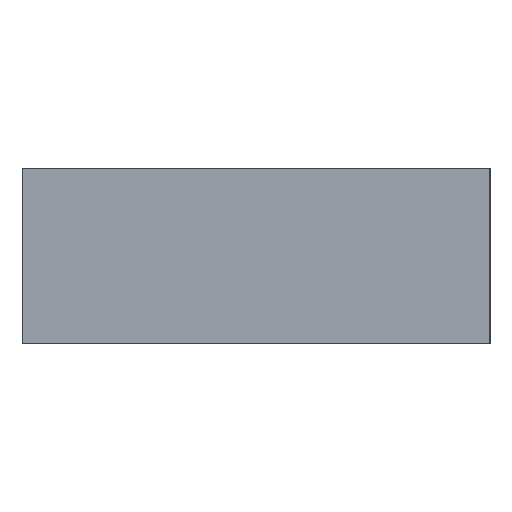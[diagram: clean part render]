
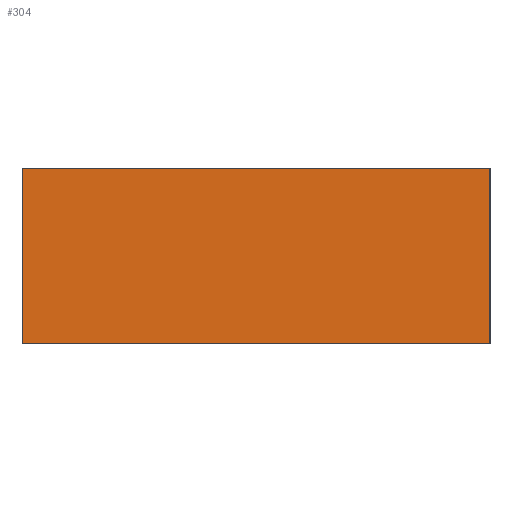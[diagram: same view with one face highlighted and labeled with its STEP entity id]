
A CAD part, left-side view. The second image highlights one B-rep face of the part: STEP entity #304.
In plain terms, the highlighted planar face has unit normal (-1, 0, 0).
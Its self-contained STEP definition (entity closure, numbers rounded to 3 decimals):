
#304=ADVANCED_FACE('',(#544),#546,.T.);
#544=FACE_BOUND('',#545,.T.);
#545=EDGE_LOOP('',(#712,#713,#714,#715));
#546=PLANE('',#547);
#547=AXIS2_PLACEMENT_3D('',#548,#549,#550);
#548=CARTESIAN_POINT('',(-1.6,-0.8,0.));
#549=DIRECTION('',(-1.,0.,0.));
#550=DIRECTION('',(0.,0.,1.));
#712=ORIENTED_EDGE('',*,*,#791,.T.);
#713=ORIENTED_EDGE('',*,*,#802,.T.);
#714=ORIENTED_EDGE('',*,*,#798,.F.);
#715=ORIENTED_EDGE('',*,*,#803,.F.);
#791=EDGE_CURVE('',#897,#894,#898,.T.);
#798=EDGE_CURVE('',#907,#909,#910,.T.);
#802=EDGE_CURVE('',#894,#909,#914,.T.);
#803=EDGE_CURVE('',#897,#907,#915,.T.);
#894=VERTEX_POINT('',#1106);
#897=VERTEX_POINT('',#1111);
#898=LINE('',#1112,#1113);
#907=VERTEX_POINT('',#1133);
#909=VERTEX_POINT('',#1137);
#910=LINE('',#1138,#1139);
#914=LINE('',#1150,#1151);
#915=LINE('',#1153,#1154);
#1106=CARTESIAN_POINT('',(-1.6,-0.8,0.6));
#1111=CARTESIAN_POINT('',(-1.6,-0.8,0.));
#1112=CARTESIAN_POINT('',(-1.6,-0.8,0.));
#1113=VECTOR('',#1114,1.);
#1114=DIRECTION('',(0.,0.,1.));
#1133=CARTESIAN_POINT('',(-1.6,0.8,0.));
#1137=CARTESIAN_POINT('',(-1.6,0.8,0.6));
#1138=CARTESIAN_POINT('',(-1.6,0.8,0.));
#1139=VECTOR('',#1140,1.);
#1140=DIRECTION('',(0.,0.,1.));
#1150=CARTESIAN_POINT('',(-1.6,-0.8,0.6));
#1151=VECTOR('',#1152,1.);
#1152=DIRECTION('',(0.,1.,0.));
#1153=CARTESIAN_POINT('',(-1.6,-0.8,0.));
#1154=VECTOR('',#1155,1.);
#1155=DIRECTION('',(0.,1.,0.));
